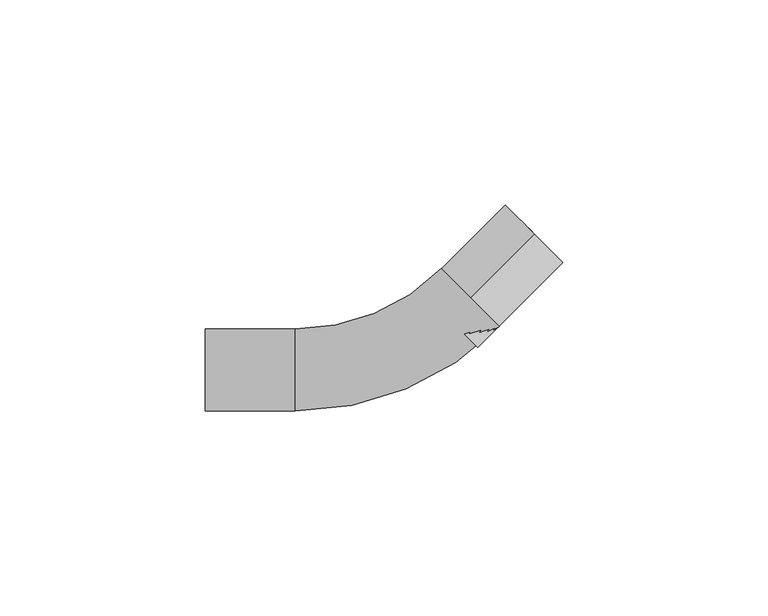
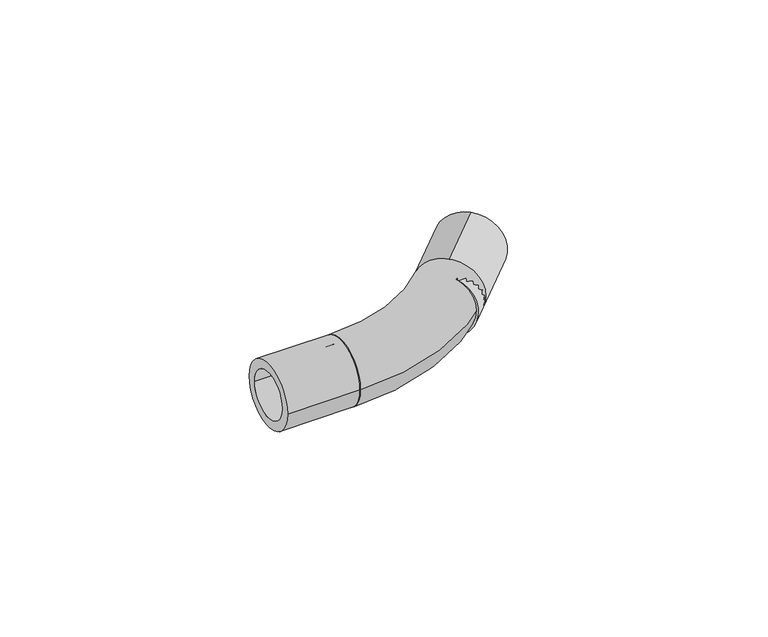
"""IFC4 building model written with IfcOpenShell, lengths in millimetres: pipe fitting geometry, REHAU_RAUTITAN_Pipe bend with former : REHAU_RAUTITAN_Pipe bend with former."""

import ifcopenshell
import ifcopenshell.guid

model = None  # the IFC model being written
_history = None  # IfcOwnerHistory: only IFC2X3 demands one
_inside = {}  # id of a spatial element -> (the spatial element, [elements in it])
_under = {}  # id of a project, library or spatial element -> (it, [spatial elements below it])
_declared = {}  # id of a project -> (the project, [libraries it declares])
_typed = {}  # id of a type object -> (the type object, [elements of that type])
_made_of = {}  # id of a material, layer set ... -> (it, [elements and type objects made of it])


def new_model(schema):
    """Start an empty IFC model of exactly this schema.

    Asked for "IFC4X3", IfcOpenShell would pick the latest addendum, in which some entities
    have other attributes; the version numbers below select the first issue.
    IFC2X3 requires an IfcOwnerHistory on every rooted entity: one is made here for all.
    """
    global model, _history
    if schema == "IFC4X3":
        model = ifcopenshell.file(schema_version=(4, 3, 0, 0))
    else:
        model = ifcopenshell.file(schema=schema)
    _inside.clear()
    _under.clear()
    _declared.clear()
    _typed.clear()
    _made_of.clear()
    _history = None
    if model.schema == "IFC2X3":
        org = make("IfcOrganization", Name="unknown")
        user = make(
            "IfcPersonAndOrganization",
            ThePerson=make("IfcPerson", FamilyName="unknown"),
            TheOrganization=org,
        )
        app = make(
            "IfcApplication",
            ApplicationDeveloper=org,
            Version="unknown",
            ApplicationFullName="unknown",
            ApplicationIdentifier="unknown",
        )
        _history = make(
            "IfcOwnerHistory",
            OwningUser=user,
            OwningApplication=app,
            ChangeAction="ADDED",
            CreationDate=0,
        )
    return model


def make(cls, **values):
    """One entity of the class cls with the attributes given. An attribute that is None is left unset."""
    return model.create_entity(
        cls, **{name: value for name, value in values.items() if value is not None}
    )


def rooted(cls, **values):
    """An entity with a GlobalId (a new one), such as an element, a storey or a relation."""
    return make(cls, GlobalId=ifcopenshell.guid.new(), OwnerHistory=_history, **values)


def si_unit(unit_type, name, prefix=None):
    """IfcSIUnit, for example si_unit("LENGTHUNIT", "METRE", prefix="MILLI")."""
    return make("IfcSIUnit", UnitType=unit_type, Prefix=prefix, Name=name)


def assignment(units):
    """IfcUnitAssignment: the units of a project."""
    return None if units is None else make("IfcUnitAssignment", Units=units)


def point(xyz):
    """IfcCartesianPoint."""
    return None if xyz is None else make("IfcCartesianPoint", Coordinates=xyz)


def direction(xyz):
    """IfcDirection."""
    return None if xyz is None else make("IfcDirection", DirectionRatios=xyz)


def frame(location, z_axis=None, x_axis=None):
    """IfcAxis2Placement3D, a coordinate frame: its origin and axes. An axis left out is left unset."""
    return make(
        "IfcAxis2Placement3D",
        Location=point(location),
        Axis=direction(z_axis),
        RefDirection=direction(x_axis),
    )


def frame_2d(location, x_axis=None):
    """IfcAxis2Placement2D, a coordinate frame in the plane: its origin and x axis."""
    return make(
        "IfcAxis2Placement2D", Location=point(location), RefDirection=direction(x_axis)
    )


def origin():
    """The frame at (0, 0, 0) with its axes left unset."""
    return frame((0.0, 0.0, 0.0))


def origin_2d():
    """The frame at (0, 0) in the plane with its x axis left unset."""
    return frame_2d((0.0, 0.0))


def place(relative_to, where):
    """IfcLocalPlacement: puts the frame where relative to a parent placement (None: the world)."""
    return make(
        "IfcLocalPlacement", PlacementRelTo=relative_to, RelativePlacement=where
    )


def context(
    kind, dimensions, precision=None, world=None, true_north=None, identifier=None
):
    """IfcGeometricRepresentationContext, for example the 3D "Model" context."""
    return make(
        "IfcGeometricRepresentationContext",
        ContextIdentifier=identifier,
        ContextType=kind,
        CoordinateSpaceDimension=dimensions,
        Precision=precision,
        WorldCoordinateSystem=world,
        TrueNorth=true_north,
    )


def project(units=None, contexts=None):
    """IfcProject with its units and contexts."""
    return rooted(
        "IfcProject",
        Name="project",
        RepresentationContexts=contexts,
        UnitsInContext=assignment(units),
    )


def spatial(cls, under=None, at=None, **own):
    """A site, building, storey or space (cls), placed at a placement, below another one or the project."""
    s = rooted(cls, ObjectPlacement=at, **own)
    if under is not None:
        _under.setdefault(under.id(), (under, []))[1].append(s)
    return s


def circle_curve(where, radius):
    """IfcCircle in the frame where."""
    return make("IfcCircle", Position=where, Radius=radius)


def ellipse_curve(where, semi_axis1, semi_axis2):
    """IfcEllipse in the frame where."""
    return make(
        "IfcEllipse", Position=where, SemiAxis1=semi_axis1, SemiAxis2=semi_axis2
    )


def trimmed(basis, trim1, trim2, sense, master):
    """IfcTrimmedCurve: the piece of a basis curve between two trims."""
    return make(
        "IfcTrimmedCurve",
        BasisCurve=basis,
        Trim1=trim1,
        Trim2=trim2,
        SenseAgreement=sense,
        MasterRepresentation=master,
    )


def segment(curve, same_sense, transition):
    """IfcCompositeCurveSegment."""
    return make(
        "IfcCompositeCurveSegment",
        Transition=transition,
        SameSense=same_sense,
        ParentCurve=curve,
    )


def composite_curve(segments, self_intersect=None):
    """IfcCompositeCurve: segments joined end to end."""
    return make("IfcCompositeCurve", Segments=segments, SelfIntersect=self_intersect)


def outline(outer, holes=None, kind="AREA"):
    """IfcArbitraryClosedProfileDef: a profile drawn as a closed curve; with holes, ...WithVoids."""
    if holes is None:
        return make("IfcArbitraryClosedProfileDef", ProfileType=kind, OuterCurve=outer)
    return make(
        "IfcArbitraryProfileDefWithVoids",
        ProfileType=kind,
        OuterCurve=outer,
        InnerCurves=holes,
    )


def extrude(swept, where, along, depth):
    """IfcExtrudedAreaSolid: the profile swept, set in the frame where, extruded along a direction by depth."""
    return make(
        "IfcExtrudedAreaSolid",
        SweptArea=swept,
        Position=where,
        ExtrudedDirection=direction(along),
        Depth=depth,
    )


def shape(context_of_items, identifier, shape_type, items):
    """IfcShapeRepresentation: the items that make up one representation, for example the "Body"."""
    return make(
        "IfcShapeRepresentation",
        ContextOfItems=context_of_items,
        RepresentationIdentifier=identifier,
        RepresentationType=shape_type,
        Items=items,
    )


def source(mapping_origin, context_of_items, identifier, shape_type, items):
    """IfcRepresentationMap: a shape defined once, which mapped items show again and again."""
    return make(
        "IfcRepresentationMap",
        MappingOrigin=mapping_origin,
        MappedRepresentation=shape(context_of_items, identifier, shape_type, items),
    )


def transform(
    local_origin,
    x_axis=None,
    y_axis=None,
    z_axis=None,
    scale=None,
    scale2=None,
    scale3=None,
    uniform=True,
):
    """IfcCartesianTransformationOperator3D, or its non-uniform kind. x_axis, y_axis, z_axis: its Axis1, 2, 3."""
    if uniform:
        return make(
            "IfcCartesianTransformationOperator3D",
            Axis1=direction(x_axis),
            Axis2=direction(y_axis),
            LocalOrigin=point(local_origin),
            Scale=scale,
            Axis3=direction(z_axis),
        )
    return make(
        "IfcCartesianTransformationOperator3DnonUniform",
        Axis1=direction(x_axis),
        Axis2=direction(y_axis),
        LocalOrigin=point(local_origin),
        Scale=scale,
        Axis3=direction(z_axis),
        Scale2=scale2,
        Scale3=scale3,
    )


def mapped(mapping_source, mapping_target):
    """IfcMappedItem: shows the shape of a source again, moved by a transform."""
    return make(
        "IfcMappedItem", MappingSource=mapping_source, MappingTarget=mapping_target
    )


def made_of(thing, what):
    """Note that an element or type object is made of a material, layer set ...; save() writes the relation."""
    if what is not None:
        _made_of.setdefault(what.id(), (what, []))[1].append(thing)
    return thing


def element(
    cls,
    number,
    at=None,
    inside=None,
    cuts=None,
    type_object=None,
    material=None,
    context=None,
    identifier="Body",
    shape_type=None,
    held_by="IfcProductDefinitionShape",
    body=None,
    shapes=None,
    **own,
):
    """One element of the class cls, such as IfcWall. Its Tag is "e" and its number.

    at: its placement. inside: the storey or other place that contains it. cuts: it is an
    opening in that element (IfcRelVoidsElement). A single representation is given by context,
    identifier, shape_type and body (its items); several are given by shapes. held_by: the class
    of the entity that holds the representations. save() writes the other relations.
    """
    e = rooted(cls, Tag="e%d" % number, ObjectPlacement=at, **own)
    if body is not None:
        shapes = [shape(context, identifier, shape_type, body)]
    if shapes is not None:
        e.Representation = make(held_by, Representations=shapes)
    if inside is not None:
        _inside.setdefault(inside.id(), (inside, []))[1].append(e)
    if cuts is not None:
        rooted(
            "IfcRelVoidsElement", RelatingBuildingElement=cuts, RelatedOpeningElement=e
        )
    if type_object is not None:
        _typed.setdefault(type_object.id(), (type_object, []))[1].append(e)
    return made_of(e, material)


def aggregate(whole, parts):
    """IfcRelAggregates: a whole, such as a stair, and the parts it consists of."""
    return rooted("IfcRelAggregates", RelatingObject=whole, RelatedObjects=parts)


def save(model, path):
    """Write the relations noted so far, then the file.

    IfcRelAggregates (storeys below a building ...), IfcRelContainedInSpatialStructure (elements
    in a storey), IfcRelDefinesByType, IfcRelAssociatesMaterial and IfcRelDeclares: one each for
    every whole, place, type object, material and project.
    """
    for whole, parts in _under.values():
        aggregate(whole, parts)
    for where, things in _inside.values():
        rooted(
            "IfcRelContainedInSpatialStructure",
            RelatedElements=things,
            RelatingStructure=where,
        )
    for kind, things in _typed.values():
        rooted("IfcRelDefinesByType", RelatedObjects=things, RelatingType=kind)
    for what, things in _made_of.values():
        rooted("IfcRelAssociatesMaterial", RelatedObjects=things, RelatingMaterial=what)
    for by, libraries in _declared.values():
        rooted("IfcRelDeclares", RelatingContext=by, RelatedDefinitions=libraries)
    model.write(path)


def plane_surface(at):
    """IfcPlane: the flat surface through the origin of the frame at, square to its z axis."""
    return make("IfcPlane", Position=at)


def revolved_surface(curve, axis_point, axis_direction):
    """IfcSurfaceOfRevolution: the curve turned about the line through axis_point along axis_direction."""
    return make(
        "IfcSurfaceOfRevolution",
        SweptCurve=make("IfcArbitraryOpenProfileDef", ProfileType="CURVE", Curve=curve),
        AxisPosition=make("IfcAxis1Placement", Location=point(axis_point), Axis=direction(axis_direction)),
    )


def advanced_brep(points, edges, surfaces, faces):
    """IfcAdvancedBrep: a solid bounded by faces that lie on surfaces and meet in shared edges.

    An edge is (start, end): straight between two places in points (the first is 0);
    or (start, end, curve); or (start, end, curve, False) where it runs against its curve.
    A face is (place in surfaces, loops), or (place, loops, False) where it looks against
    its surface's normal. A loop lists edges by number (the first is 1), with a minus sign
    where the edge is run from its end to its start. The first loop is the outer one.
    """
    corners = [point(p) for p in points]
    vertices = [make("IfcVertexPoint", VertexGeometry=c) for c in corners]
    made = []
    for start, end, *more in edges:
        made.append(
            make(
                "IfcEdgeCurve",
                EdgeStart=vertices[start],
                EdgeEnd=vertices[end],
                EdgeGeometry=more[0] if more else make("IfcPolyline", Points=[corners[start], corners[end]]),
                SameSense=more[1] if len(more) > 1 else True,
            )
        )
    hull = []
    for where, loops, *sense in faces:
        bounds = []
        for j, loop in enumerate(loops):
            ring = [make("IfcOrientedEdge", EdgeElement=made[abs(k) - 1], Orientation=k > 0) for k in loop]
            bounds.append(
                make(
                    "IfcFaceOuterBound" if j == 0 else "IfcFaceBound",
                    Bound=make("IfcEdgeLoop", EdgeList=ring),
                    Orientation=True,
                )
            )
        hull.append(make("IfcAdvancedFace", Bounds=bounds, FaceSurface=surfaces[where], SameSense=sense[0] if sense else True))
    return make("IfcAdvancedBrep", Outer=make("IfcClosedShell", CfsFaces=hull))


def pipe_fitting_3aaf8646(model_context):
    return source(origin(), model_context, "Body", "SolidModel", [
        advanced_brep(
        [(-25.0, -10.0, 0.0), (-25.0, 10.0, 0.0), (-25.0, -7.2, 0.0), (-25.0, 7.2, 0.0), (24.7487373, 10.6066017, 0.0), (10.6066017, 24.7487373, 0.0), (22.7688384, 12.5865007, 0.0), (12.5865007, 22.7688384, 0.0)],
        [
            (0, 1, circle_curve(frame((-25.0, 0.0, 0.0), z_axis=(-1.0, 0.0, 0.0), x_axis=(0.0, 1.0, 0.0)), 10.0)),
            (1, 0, circle_curve(frame((-25.0, 0.0, 0.0), z_axis=(-1.0, 0.0, 0.0), x_axis=(0.0, 1.0, 0.0)), 10.0)),
            (2, 3, circle_curve(frame((-25.0, 0.0, 0.0), z_axis=(1.0, 0.0, 0.0), x_axis=(0.0, 1.0, 0.0)), 7.2)),
            (3, 2, circle_curve(frame((-25.0, 0.0, 0.0), z_axis=(1.0, 0.0, 0.0), x_axis=(0.0, 1.0, 0.0)), 7.2)),
            (4, 5, circle_curve(frame((17.6776695, 17.6776695, 0.0), z_axis=(0.7071067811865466, 0.7071067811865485, 0.0), x_axis=(-0.7071067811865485, 0.7071067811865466, 0.0)), 10.0)),
            (5, 4, circle_curve(frame((17.6776695, 17.6776695, 0.0), z_axis=(0.7071067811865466, 0.7071067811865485, 0.0), x_axis=(-0.7071067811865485, 0.7071067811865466, 0.0)), 10.0)),
            (6, 7, circle_curve(frame((17.6776695, 17.6776695, 0.0), z_axis=(-0.7071067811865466, -0.7071067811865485, 0.0), x_axis=(-0.7071067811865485, 0.7071067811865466, 0.0)), 7.2)),
            (7, 6, circle_curve(frame((17.6776695, 17.6776695, 0.0), z_axis=(-0.7071067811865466, -0.7071067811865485, 0.0), x_axis=(-0.7071067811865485, 0.7071067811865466, 0.0)), 7.2)),
            (5, 1, circle_curve(frame((-25.0, 60.3553391, 0.0), z_axis=(0.0, 0.0, -1.0), x_axis=(0.0, -1.0, 0.0)), 50.3553391)),
            (0, 4, circle_curve(frame((-25.0, 60.3553391, 0.0), z_axis=(0.0, 0.0, 1.0), x_axis=(0.0, -1.0, 0.0)), 70.3553391)),
            (7, 3, circle_curve(frame((-25.0, 60.3553391, 0.0), z_axis=(0.0, 0.0, -1.0), x_axis=(0.0, -1.0, 0.0)), 53.1553391)),
            (2, 6, circle_curve(frame((-25.0, 60.3553391, 0.0), z_axis=(0.0, 0.0, 1.0), x_axis=(0.0, -1.0, 0.0)), 67.5553391)),
        ],
        [
            plane_surface(frame((-25.0, 0.0, 0.0), z_axis=(-1.0, 0.0, 0.0), x_axis=(0.0, 0.0, 1.0))),
            plane_surface(frame((17.6776695, 17.6776695, 0.0), z_axis=(0.7071067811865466, 0.7071067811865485, 0.0), x_axis=(0.0, 0.0, 1.0))),
            revolved_surface(trimmed(ellipse_curve(frame((-25.0, 0.0, 0.0), z_axis=(-1.0, 0.0, 0.0), x_axis=(0.0, 1.0, 0.0)), 10.0, 10.0), [point((-25.0, -10.0, 0.0))], [point((-25.0, 10.0, 0.0))], True, "CARTESIAN"), (-25.0, 60.3553391, 0.0), (0.0, 0.0, 1.0)),
            revolved_surface(trimmed(ellipse_curve(frame((-25.0, 0.0, 0.0), z_axis=(-1.0, 0.0, 0.0), x_axis=(0.0, 1.0, 0.0)), 10.0, 10.0), [point((-25.0, 10.0, 0.0))], [point((-25.0, -10.0, 0.0))], True, "CARTESIAN"), (-25.0, 60.3553391, 0.0), (0.0, 0.0, 1.0)),
            revolved_surface(trimmed(ellipse_curve(frame((-25.0, 0.0, 0.0), z_axis=(1.0, 0.0, 0.0), x_axis=(0.0, 1.0, 0.0)), 7.2, 7.2), [point((-25.0, -7.2, 0.0))], [point((-25.0, 7.2, 0.0))], True, "CARTESIAN"), (-25.0, 60.3553391, 0.0), (0.0, 0.0, 1.0)),
            revolved_surface(trimmed(ellipse_curve(frame((-25.0, 0.0, 0.0), z_axis=(1.0, 0.0, 0.0), x_axis=(0.0, 1.0, 0.0)), 7.2, 7.2), [point((-25.0, 7.2, 0.0))], [point((-25.0, -7.2, 0.0))], True, "CARTESIAN"), (-25.0, 60.3553391, 0.0), (0.0, 0.0, 1.0)),
        ],
        [
            (0, [[1, 2], [3, 4]]),
            (1, [[5, 6], [7, 8]]),
            (2, [[9, -1, 10, -6]]),
            (3, [[-10, -2, -9, -5]]),
            (4, [[11, -3, 12, -8]]),
            (5, [[-12, -4, -11, -7]]),
        ],
    ),
        extrude(outline(composite_curve([segment(trimmed(circle_curve(origin_2d(), 10.0), [point((10.0, 0.0))], [point((-10.0, 0.0))], False, "CARTESIAN"), True, "CONTINUOUS"), segment(trimmed(circle_curve(origin_2d(), 10.0), [point((-10.0, 0.0))], [point((10.0, 0.0))], False, "CARTESIAN"), True, "CONTINUOUS")], self_intersect=False), holes=[composite_curve([segment(trimmed(circle_curve(origin_2d(), 7.2), [point((7.2, 0.0))], [point((-7.2, 0.0))], True, "CARTESIAN"), True, "CONTINUOUS"), segment(trimmed(circle_curve(origin_2d(), 7.2), [point((-7.2, 0.0))], [point((7.2, 0.0))], True, "CARTESIAN"), True, "CONTINUOUS")], self_intersect=False)]), frame((-47.0, 0.0, 0.0), z_axis=(1.0, 0.0, 0.0), x_axis=(0.0, 1.0, 0.0)), (0.0, 0.0, 1.0), 22.0),
        extrude(outline(composite_curve([segment(trimmed(circle_curve(frame_2d((0.0, -10.0)), 10.0), [point((0.0, -20.0))], [point((0.0, 0.0))], False, "CARTESIAN"), True, "CONTINUOUS"), segment(trimmed(circle_curve(frame_2d((0.0, -10.0)), 10.0), [point((0.0, 0.0))], [point((0.0, -20.0))], False, "CARTESIAN"), True, "CONTINUOUS")], self_intersect=False), holes=[composite_curve([segment(trimmed(circle_curve(frame_2d((0.0, -10.0)), 7.2), [point((0.0, -17.2))], [point((0.0, -2.8))], True, "CARTESIAN"), True, "CONTINUOUS"), segment(trimmed(circle_curve(frame_2d((0.0, -10.0)), 7.2), [point((0.0, -2.8))], [point((0.0, -17.2))], True, "CARTESIAN"), True, "CONTINUOUS")], self_intersect=False)]), frame((12.5, 12.5, 10.0), z_axis=(0.7071067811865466, 0.7071067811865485, 0.0), x_axis=(-0.7071067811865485, 0.7071067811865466, 0.0)), (0.0, 0.0, 1.0), 29.3223305),
    ])


if __name__ == "__main__":
    model = new_model("IFC4")
    model_context = context("Model", 3, world=origin())
    ifc_project = project(units=[si_unit("LENGTHUNIT", "METRE", prefix="MILLI")], contexts=[model_context])
    site = spatial("IfcSite", under=ifc_project)
    building = spatial("IfcBuilding", under=site)
    placement = place(None, origin())
    pipe_fitting_shape = pipe_fitting_3aaf8646(model_context)
    element("IfcPipeFitting", 1, ObjectType="REHAU_RAUTITAN_Pipe bend with former : REHAU_RAUTITAN_Pipe bend with former", at=placement, inside=building, context=model_context, shape_type="MappedRepresentation", body=[
        mapped(pipe_fitting_shape, transform((0.0, 0.0, 0.0), x_axis=(1.0, 0.0, 0.0), y_axis=(0.0, 1.0, 0.0), z_axis=(0.0, 0.0, 1.0))),
    ])
    save(model, "model.ifc")
